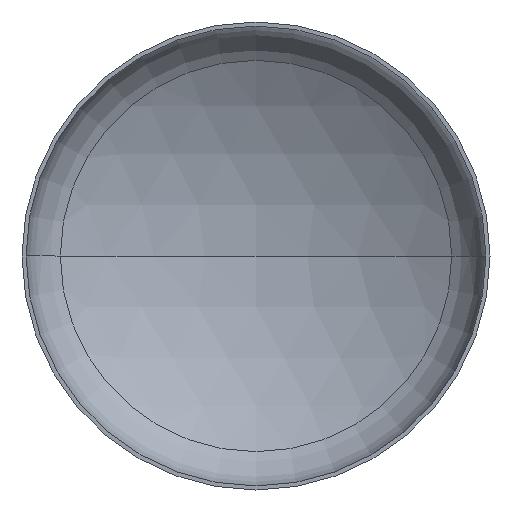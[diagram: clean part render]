
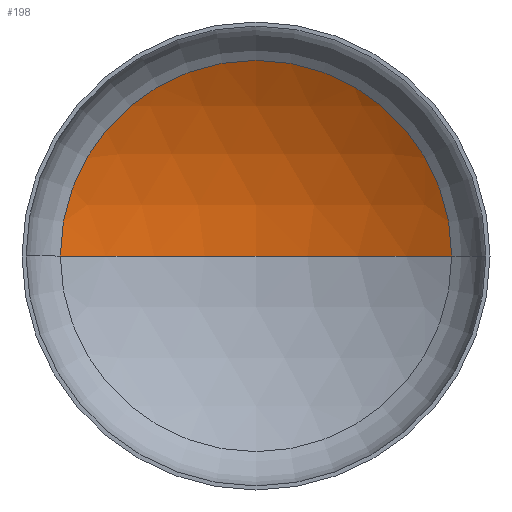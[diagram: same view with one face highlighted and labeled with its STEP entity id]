
A CAD part, front view. The second image highlights one B-rep face of the part: STEP entity #198.
In plain terms, the highlighted spherical face has radius 2400 mm.
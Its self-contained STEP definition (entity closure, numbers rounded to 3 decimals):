
#5 = AXIS2_PLACEMENT_3D ( 'NONE', #408, #268, #87 ) ;
#9 = AXIS2_PLACEMENT_3D ( 'NONE', #257, #378, #41 ) ;
#16 = EDGE_LOOP ( 'NONE', ( #20, #112, #21 ) ) ;
#19 = VERTEX_POINT ( 'NONE', #235 ) ;
#20 = ORIENTED_EDGE ( 'NONE', *, *, #343, .F. ) ;
#21 = ORIENTED_EDGE ( 'NONE', *, *, #376, .T. ) ;
#41 = DIRECTION ( 'NONE',  ( 1., 0., 0. ) ) ;
#51 = VERTEX_POINT ( 'NONE', #270 ) ;
#78 = AXIS2_PLACEMENT_3D ( 'NONE', #183, #191, #216 ) ;
#87 = DIRECTION ( 'NONE',  ( -1., 0., 0. ) ) ;
#101 = VERTEX_POINT ( 'NONE', #228 ) ;
#112 = ORIENTED_EDGE ( 'NONE', *, *, #370, .T. ) ;
#183 = CARTESIAN_POINT ( 'NONE',  ( 0., -1568.906, 0. ) ) ;
#191 = DIRECTION ( 'NONE',  ( 0., 0., -1. ) ) ;
#198 = ADVANCED_FACE ( 'NONE', ( #272 ), #212, .F. ) ;
#201 = CARTESIAN_POINT ( 'NONE',  ( 0., 477.163, 0. ) ) ;
#212 = SPHERICAL_SURFACE ( 'NONE', #78, 2400. ) ;
#216 = DIRECTION ( 'NONE',  ( -1., 0., 0. ) ) ;
#220 = DIRECTION ( 'NONE',  ( 1., 0., 0. ) ) ;
#228 = CARTESIAN_POINT ( 'NONE',  ( 0., 831.094, 0. ) ) ;
#235 = CARTESIAN_POINT ( 'NONE',  ( 1254.433, 477.163, 0. ) ) ;
#237 = CIRCLE ( 'NONE', #5, 2400. ) ;
#257 = CARTESIAN_POINT ( 'NONE',  ( 0., -1568.906, 0. ) ) ;
#266 = AXIS2_PLACEMENT_3D ( 'NONE', #201, #364, #220 ) ;
#268 = DIRECTION ( 'NONE',  ( 0., 0., -1. ) ) ;
#270 = CARTESIAN_POINT ( 'NONE',  ( -1254.433, 477.163, 0. ) ) ;
#272 = FACE_OUTER_BOUND ( 'NONE', #16, .T. ) ;
#290 = CIRCLE ( 'NONE', #9, 2400. ) ;
#343 = EDGE_CURVE ( 'NONE', #101, #51, #290, .T. ) ;
#345 = CIRCLE ( 'NONE', #266, 1254.433 ) ;
#364 = DIRECTION ( 'NONE',  ( 0., -1., 0. ) ) ;
#370 = EDGE_CURVE ( 'NONE', #101, #19, #237, .T. ) ;
#376 = EDGE_CURVE ( 'NONE', #19, #51, #345, .T. ) ;
#378 = DIRECTION ( 'NONE',  ( 0., 0., 1. ) ) ;
#408 = CARTESIAN_POINT ( 'NONE',  ( 0., -1568.906, 0. ) ) ;
